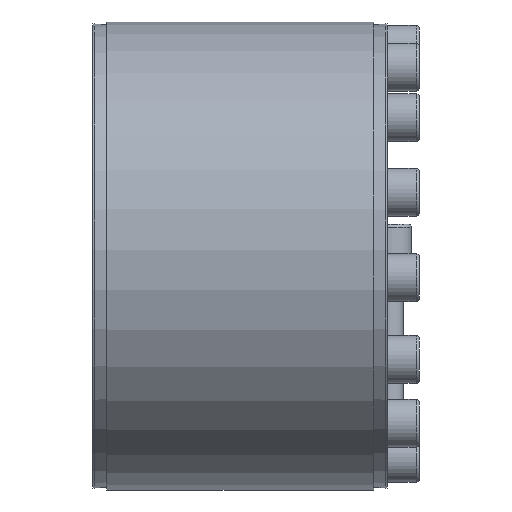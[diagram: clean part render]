
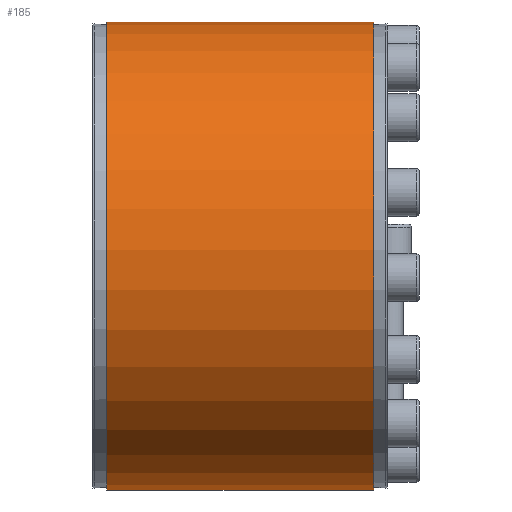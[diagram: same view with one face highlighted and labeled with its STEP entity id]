
A CAD part, left-side view. The second image highlights one B-rep face of the part: STEP entity #185.
In plain terms, the highlighted cylindrical face has radius 117.5 mm (diameter 235 mm), a partial arc.
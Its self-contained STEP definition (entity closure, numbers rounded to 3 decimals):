
#185 = ADVANCED_FACE( '', ( #491 ), #492, .T. );
#491 = FACE_OUTER_BOUND( '', #865, .T. );
#492 = CYLINDRICAL_SURFACE( '', #866, 117.5 );
#865 = EDGE_LOOP( '', ( #1406, #1407, #1408, #1409 ) );
#866 = AXIS2_PLACEMENT_3D( '', #1410, #1411, #1412 );
#1406 = ORIENTED_EDGE( '', *, *, #1835, .F. );
#1407 = ORIENTED_EDGE( '', *, *, #1810, .T. );
#1408 = ORIENTED_EDGE( '', *, *, #1680, .F. );
#1409 = ORIENTED_EDGE( '', *, *, #1831, .F. );
#1410 = CARTESIAN_POINT( '', ( 0., -60., 0. ) );
#1411 = DIRECTION( '', ( 0., 1., 0. ) );
#1412 = DIRECTION( '', ( 0., 0., -1. ) );
#1680 = EDGE_CURVE( '', #1962, #1964, #1965, .F. );
#1810 = EDGE_CURVE( '', #2191, #1964, #2193, .T. );
#1831 = EDGE_CURVE( '', #2218, #1962, #2220, .T. );
#1835 = EDGE_CURVE( '', #2191, #2218, #2225, .T. );
#1962 = VERTEX_POINT( '', #2449 );
#1964 = VERTEX_POINT( '', #2452 );
#1965 = LINE( '', #2453, #2454 );
#2191 = VERTEX_POINT( '', #2717 );
#2193 = CIRCLE( '', #2720, 117.5 );
#2218 = VERTEX_POINT( '', #2745 );
#2220 = CIRCLE( '', #2748, 117.5 );
#2225 = LINE( '', #2753, #2754 );
#2449 = CARTESIAN_POINT( '', ( 26.382, 7., 114.5 ) );
#2452 = CARTESIAN_POINT( '', ( 26.382, 141., 114.5 ) );
#2453 = CARTESIAN_POINT( '', ( 26.382, -60., 114.5 ) );
#2454 = VECTOR( '', #2862, 1000. );
#2717 = CARTESIAN_POINT( '', ( 22.47, 141., 115.332 ) );
#2720 = AXIS2_PLACEMENT_3D( '', #3138, #3139, #3140 );
#2745 = CARTESIAN_POINT( '', ( 22.47, 7., 115.332 ) );
#2748 = AXIS2_PLACEMENT_3D( '', #3157, #3158, #3159 );
#2753 = CARTESIAN_POINT( '', ( 22.47, -60., 115.332 ) );
#2754 = VECTOR( '', #3163, 1000. );
#2862 = DIRECTION( '', ( 0., -1., 0. ) );
#3138 = CARTESIAN_POINT( '', ( 0., 141., 0. ) );
#3139 = DIRECTION( '', ( 0., -1., 0. ) );
#3140 = DIRECTION( '', ( 0., 0., -1. ) );
#3157 = CARTESIAN_POINT( '', ( 0., 7., 0. ) );
#3158 = DIRECTION( '', ( 0., -1., 0. ) );
#3159 = DIRECTION( '', ( 0., 0., -1. ) );
#3163 = DIRECTION( '', ( 0., -1., 0. ) );
